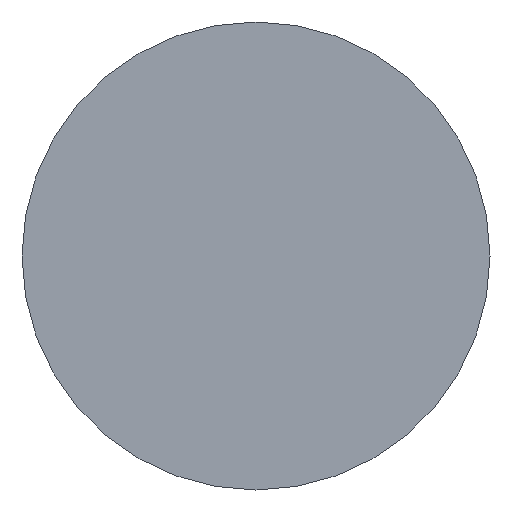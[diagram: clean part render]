
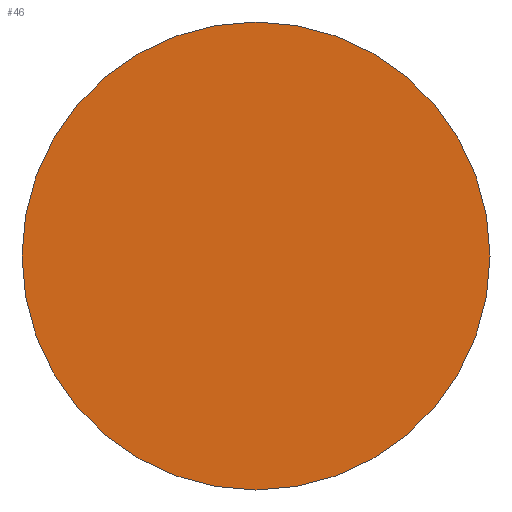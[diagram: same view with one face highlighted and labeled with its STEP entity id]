
A CAD part, left-side view. The second image highlights one B-rep face of the part: STEP entity #46.
In plain terms, the highlighted planar face has unit normal (-1, 0, 0).
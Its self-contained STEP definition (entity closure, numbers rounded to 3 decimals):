
#19=FACE_OUTER_BOUND('',#23,.T.);
#23=EDGE_LOOP('',(#38));
#29=CIRCLE('',#59,98.);
#32=VERTEX_POINT('',#83);
#35=EDGE_CURVE('',#32,#32,#29,.T.);
#38=ORIENTED_EDGE('',*,*,#35,.T.);
#44=PLANE('',#58);
#46=ADVANCED_FACE('',(#19),#44,.T.);
#58=AXIS2_PLACEMENT_3D('',#82,#67,#68);
#59=AXIS2_PLACEMENT_3D('',#84,#69,#70);
#67=DIRECTION('center_axis',(-1.,0.,0.));
#68=DIRECTION('ref_axis',(0.,0.,1.));
#69=DIRECTION('center_axis',(-1.,0.,0.));
#70=DIRECTION('ref_axis',(0.,0.,1.));
#82=CARTESIAN_POINT('Origin',(-80.,0.,-98.));
#83=CARTESIAN_POINT('',(-80.,0.,0.));
#84=CARTESIAN_POINT('Origin',(-80.,0.,-98.));
